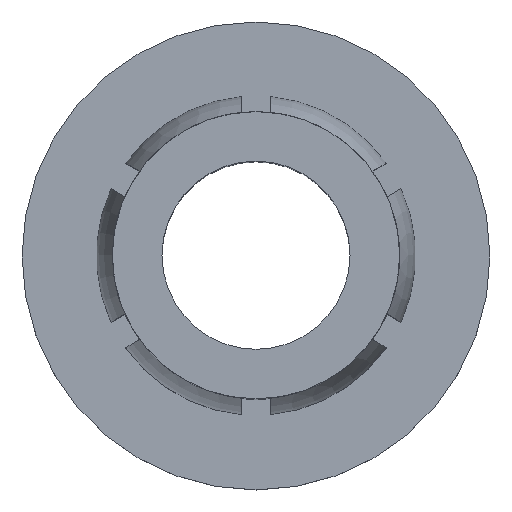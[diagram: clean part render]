
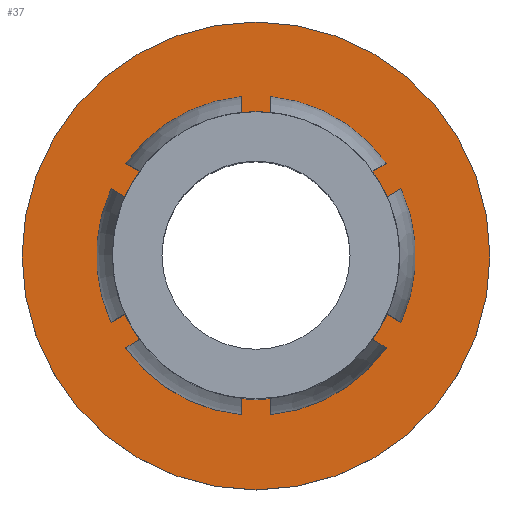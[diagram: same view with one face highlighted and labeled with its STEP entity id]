
A CAD part, top view. The second image highlights one B-rep face of the part: STEP entity #37.
In plain terms, the highlighted planar face has unit normal (0, 0, 1).
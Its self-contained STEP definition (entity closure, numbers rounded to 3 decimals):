
#32 = AXIS2_PLACEMENT_3D ( 'NONE', #144, #1250, #814 ) ;
#37 = ADVANCED_FACE ( 'NONE', ( #471, #114 ), #462, .F. ) ;
#59 = EDGE_CURVE ( 'NONE', #589, #589, #834, .T. ) ;
#114 = FACE_BOUND ( 'NONE', #1225, .T. ) ;
#144 = CARTESIAN_POINT ( 'NONE',  ( 7.134, 0., -21.005 ) ) ;
#194 = EDGE_CURVE ( 'NONE', #864, #864, #1593, .T. ) ;
#366 = DIRECTION ( 'NONE',  ( 0., 0., -1. ) ) ;
#462 = PLANE ( 'NONE',  #733 ) ;
#471 = FACE_OUTER_BOUND ( 'NONE', #999, .T. ) ;
#483 = DIRECTION ( 'NONE',  ( 0., 0., -1. ) ) ;
#501 = CARTESIAN_POINT ( 'NONE',  ( 13.484, 0., -21.005 ) ) ;
#589 = VERTEX_POINT ( 'NONE', #1563 ) ;
#722 = CARTESIAN_POINT ( 'NONE',  ( 7.134, 0., -21.005 ) ) ;
#733 = AXIS2_PLACEMENT_3D ( 'NONE', #501, #483, #1000 ) ;
#814 = DIRECTION ( 'NONE',  ( -1., 0., 0. ) ) ;
#829 = AXIS2_PLACEMENT_3D ( 'NONE', #722, #366, #1239 ) ;
#834 = CIRCLE ( 'NONE', #829, 6.35 ) ;
#864 = VERTEX_POINT ( 'NONE', #981 ) ;
#981 = CARTESIAN_POINT ( 'NONE',  ( 3.235, 0., -21.005 ) ) ;
#999 = EDGE_LOOP ( 'NONE', ( #1056 ) ) ;
#1000 = DIRECTION ( 'NONE',  ( -1., 0., 0. ) ) ;
#1056 = ORIENTED_EDGE ( 'NONE', *, *, #59, .F. ) ;
#1225 = EDGE_LOOP ( 'NONE', ( #1349 ) ) ;
#1239 = DIRECTION ( 'NONE',  ( -1., 0., 0. ) ) ;
#1250 = DIRECTION ( 'NONE',  ( 0., 0., -1. ) ) ;
#1349 = ORIENTED_EDGE ( 'NONE', *, *, #194, .T. ) ;
#1563 = CARTESIAN_POINT ( 'NONE',  ( 0.784, 0., -21.005 ) ) ;
#1593 = CIRCLE ( 'NONE', #32, 3.899 ) ;
